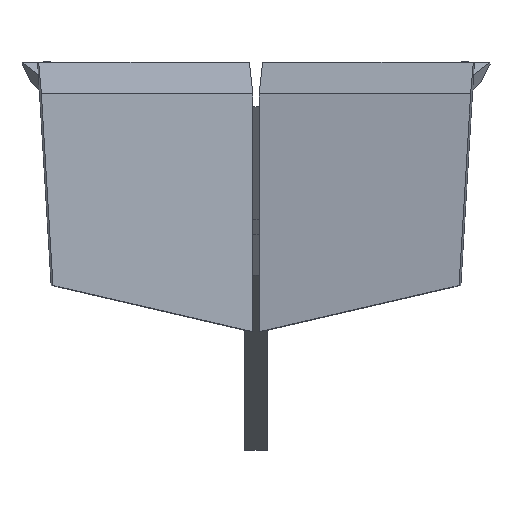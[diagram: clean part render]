
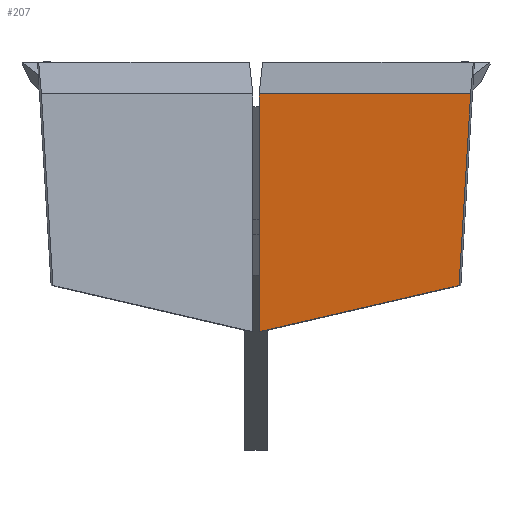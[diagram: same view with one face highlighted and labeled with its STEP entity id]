
A CAD part, top view. The second image highlights one B-rep face of the part: STEP entity #207.
In plain terms, the highlighted free-form (B-spline) face has degree [1, 1] with [2, 2] control points.
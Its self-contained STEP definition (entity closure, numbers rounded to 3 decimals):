
#207=ADVANCED_FACE('',(#262),#2454,.T.);
#262=FACE_OUTER_BOUND('',#317,.T.);
#317=EDGE_LOOP('',(#472,#473,#474,#475));
#472=ORIENTED_EDGE('',*,*,#1512,.T.);
#473=ORIENTED_EDGE('',*,*,#1513,.T.);
#474=ORIENTED_EDGE('',*,*,#1514,.T.);
#475=ORIENTED_EDGE('',*,*,#1515,.T.);
#732=PCURVE('',#2454,#992);
#733=PCURVE('',#2454,#993);
#734=PCURVE('',#2454,#994);
#735=PCURVE('',#2454,#995);
#992=DEFINITIONAL_REPRESENTATION('',(#1900),#4937);
#993=DEFINITIONAL_REPRESENTATION('',(#1902),#4937);
#994=DEFINITIONAL_REPRESENTATION('',(#1904),#4937);
#995=DEFINITIONAL_REPRESENTATION('',(#1906),#4937);
#1252=SURFACE_CURVE('',#1899,(#732),.PCURVE_S1.);
#1253=SURFACE_CURVE('',#1901,(#733),.PCURVE_S1.);
#1254=SURFACE_CURVE('',#1903,(#734),.PCURVE_S1.);
#1255=SURFACE_CURVE('',#1905,(#735),.PCURVE_S1.);
#1512=EDGE_CURVE('',#2295,#2297,#1252,.T.);
#1513=EDGE_CURVE('',#2297,#2296,#1253,.T.);
#1514=EDGE_CURVE('',#2296,#2294,#1254,.T.);
#1515=EDGE_CURVE('',#2294,#2295,#1255,.T.);
#1899=B_SPLINE_CURVE_WITH_KNOTS('',1,(#3760,#3761),.UNSPECIFIED.,.F.,.F.,
(2,2),(100.804,861.454),.UNSPECIFIED.);
#1900=B_SPLINE_CURVE_WITH_KNOTS('',1,(#3762,#3763),.UNSPECIFIED.,.F.,.F.,
(2,2),(100.804,861.454),.UNSPECIFIED.);
#1901=B_SPLINE_CURVE_WITH_KNOTS('',3,(#3764,#3765,#3766,#3767),
 .UNSPECIFIED.,.F.,.F.,(4,4),(-528.5,-265.915),
 .UNSPECIFIED.);
#1902=B_SPLINE_CURVE_WITH_KNOTS('',3,(#3768,#3769,#3770,#3771),
 .UNSPECIFIED.,.F.,.F.,(4,4),(-528.5,-265.915),
 .UNSPECIFIED.);
#1903=B_SPLINE_CURVE_WITH_KNOTS('',3,(#3772,#3773,#3774,#3775),
 .UNSPECIFIED.,.F.,.F.,(4,4),(0.,243.688),.UNSPECIFIED.);
#1904=B_SPLINE_CURVE_WITH_KNOTS('',3,(#3776,#3777,#3778,#3779),
 .UNSPECIFIED.,.F.,.F.,(4,4),(0.,243.688),.UNSPECIFIED.);
#1905=B_SPLINE_CURVE_WITH_KNOTS('',1,(#3780,#3781),.UNSPECIFIED.,.F.,.F.,
(2,2),(-789.678,-518.835),.UNSPECIFIED.);
#1906=B_SPLINE_CURVE_WITH_KNOTS('',3,(#3782,#3783,#3784,#3785),
 .UNSPECIFIED.,.F.,.F.,(4,4),(-789.678,-518.835),
 .UNSPECIFIED.);
#2294=VERTEX_POINT('',#3756);
#2295=VERTEX_POINT('',#3757);
#2296=VERTEX_POINT('',#3758);
#2297=VERTEX_POINT('',#3759);
#2454=B_SPLINE_SURFACE_WITH_KNOTS('',1,1,((#3752,#3753),(#3754,#3755)),
 .UNSPECIFIED.,.F.,.F.,.F.,(2,2),(2,2),(-289.536,-16.245),
(0.,861.454),.UNSPECIFIED.);
#3752=CARTESIAN_POINT('',(275.019,199.605,400.183));
#3753=CARTESIAN_POINT('',(275.019,-142.228,400.183));
#3754=CARTESIAN_POINT('',(4.019,199.605,364.877));
#3755=CARTESIAN_POINT('',(4.019,-142.228,364.877));
#3756=CARTESIAN_POINT('',(272.593,159.605,399.867));
#3757=CARTESIAN_POINT('',(4.019,159.605,364.877));
#3758=CARTESIAN_POINT('',(257.838,-83.629,397.945));
#3759=CARTESIAN_POINT('',(4.019,-142.228,364.877));
#3760=CARTESIAN_POINT('',(4.019,159.605,364.877));
#3761=CARTESIAN_POINT('',(4.019,-142.228,364.877));
#3762=CARTESIAN_POINT('',(-16.245,100.804));
#3763=CARTESIAN_POINT('',(-16.245,861.454));
#3764=CARTESIAN_POINT('',(4.019,-142.228,364.877));
#3765=CARTESIAN_POINT('',(88.626,-122.695,375.899));
#3766=CARTESIAN_POINT('',(173.232,-103.162,386.922));
#3767=CARTESIAN_POINT('',(257.838,-83.629,397.945));
#3768=CARTESIAN_POINT('',(-16.245,861.454));
#3769=CARTESIAN_POINT('',(-101.567,812.229));
#3770=CARTESIAN_POINT('',(-186.888,763.004));
#3771=CARTESIAN_POINT('',(-272.209,713.779));
#3772=CARTESIAN_POINT('',(257.838,-83.629,397.945));
#3773=CARTESIAN_POINT('',(262.756,-2.552,398.585));
#3774=CARTESIAN_POINT('',(267.675,78.527,399.226));
#3775=CARTESIAN_POINT('',(272.593,159.605,399.867));
#3776=CARTESIAN_POINT('',(-272.209,713.779));
#3777=CARTESIAN_POINT('',(-277.169,509.454));
#3778=CARTESIAN_POINT('',(-282.129,305.129));
#3779=CARTESIAN_POINT('',(-287.089,100.804));
#3780=CARTESIAN_POINT('',(272.593,159.605,399.867));
#3781=CARTESIAN_POINT('',(4.019,159.605,364.877));
#3782=CARTESIAN_POINT('',(-287.089,100.804));
#3783=CARTESIAN_POINT('',(-196.808,100.804));
#3784=CARTESIAN_POINT('',(-106.527,100.804));
#3785=CARTESIAN_POINT('',(-16.245,100.804));
#4937=(
GEOMETRIC_REPRESENTATION_CONTEXT(2)
PARAMETRIC_REPRESENTATION_CONTEXT()
REPRESENTATION_CONTEXT('pspace','')
);
